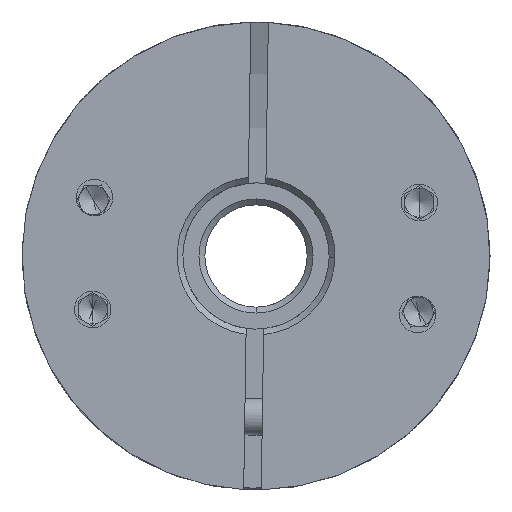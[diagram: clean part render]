
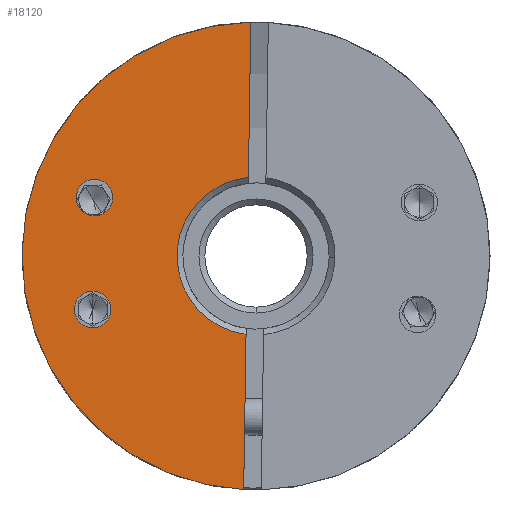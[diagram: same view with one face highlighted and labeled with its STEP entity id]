
A CAD part, front view. The second image highlights one B-rep face of the part: STEP entity #18120.
In plain terms, the highlighted planar face has unit normal (0, -1, 0).
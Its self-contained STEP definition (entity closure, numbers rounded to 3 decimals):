
#196 = DIRECTION ( 'NONE',  ( 1., 0., -0.015 ) ) ;
#206 = ORIENTED_EDGE ( 'NONE', *, *, #15008, .T. ) ;
#208 = VERTEX_POINT ( 'NONE', #15770 ) ;
#331 = CIRCLE ( 'NONE', #4016, 1.25 ) ;
#601 = AXIS2_PLACEMENT_3D ( 'NONE', #1756, #11448, #20678 ) ;
#732 = CIRCLE ( 'NONE', #15209, 1.25 ) ;
#1420 = AXIS2_PLACEMENT_3D ( 'NONE', #3936, #11525, #196 ) ;
#1428 = CARTESIAN_POINT ( 'NONE',  ( -70.229, -19.411, 3.994 ) ) ;
#1756 = CARTESIAN_POINT ( 'NONE',  ( -70.345, -19.411, -3.656 ) ) ;
#2129 = CARTESIAN_POINT ( 'NONE',  ( -71.479, -19.411, 4.013 ) ) ;
#2479 = DIRECTION ( 'NONE',  ( 0., -1., 0. ) ) ;
#2506 = EDGE_LOOP ( 'NONE', ( #8284, #16114, #14793, #10291, #17716 ) ) ;
#3100 = AXIS2_PLACEMENT_3D ( 'NONE', #1428, #12526, #12782 ) ;
#3464 = VECTOR ( 'NONE', #8041, 1000. ) ;
#3936 = CARTESIAN_POINT ( 'NONE',  ( -59.178, -19.411, 0. ) ) ;
#3987 = CIRCLE ( 'NONE', #1420, 16. ) ;
#4016 = AXIS2_PLACEMENT_3D ( 'NONE', #23746, #20109, #16503 ) ;
#4947 = EDGE_CURVE ( 'NONE', #5636, #15094, #732, .T. ) ;
#4956 = ORIENTED_EDGE ( 'NONE', *, *, #4947, .T. ) ;
#5138 = FACE_OUTER_BOUND ( 'NONE', #2506, .T. ) ;
#5413 = DIRECTION ( 'NONE',  ( 0., 1., 0. ) ) ;
#5421 = CARTESIAN_POINT ( 'NONE',  ( -59.687, -19.411, 6.008 ) ) ;
#5636 = VERTEX_POINT ( 'NONE', #23624 ) ;
#6407 = ORIENTED_EDGE ( 'NONE', *, *, #6813, .T. ) ;
#6813 = EDGE_CURVE ( 'NONE', #208, #6972, #331, .T. ) ;
#6972 = VERTEX_POINT ( 'NONE', #2129 ) ;
#7407 = CARTESIAN_POINT ( 'NONE',  ( -59.697, -19.411, 5.375 ) ) ;
#8041 = DIRECTION ( 'NONE',  ( -0.015, 0., -1. ) ) ;
#8172 = EDGE_CURVE ( 'NONE', #14587, #10458, #21670, .T. ) ;
#8284 = ORIENTED_EDGE ( 'NONE', *, *, #8172, .F. ) ;
#8736 = CARTESIAN_POINT ( 'NONE',  ( -75.176, -19.411, 0.243 ) ) ;
#9217 = DIRECTION ( 'NONE',  ( -0.015, 0., -1. ) ) ;
#9402 = CARTESIAN_POINT ( 'NONE',  ( -71.595, -19.411, -3.637 ) ) ;
#9847 = FACE_BOUND ( 'NONE', #10603, .T. ) ;
#10219 = CIRCLE ( 'NONE', #20658, 16. ) ;
#10253 = CARTESIAN_POINT ( 'NONE',  ( -60.021, -19.411, -15.978 ) ) ;
#10291 = ORIENTED_EDGE ( 'NONE', *, *, #12969, .T. ) ;
#10458 = VERTEX_POINT ( 'NONE', #10253 ) ;
#10558 = VERTEX_POINT ( 'NONE', #18662 ) ;
#10603 = EDGE_LOOP ( 'NONE', ( #206, #4956 ) ) ;
#11448 = DIRECTION ( 'NONE',  ( 0., 1., 0. ) ) ;
#11525 = DIRECTION ( 'NONE',  ( 0., -1., 0. ) ) ;
#11800 = DIRECTION ( 'NONE',  ( 0., 1., 0. ) ) ;
#12526 = DIRECTION ( 'NONE',  ( 0., 1., 0. ) ) ;
#12782 = DIRECTION ( 'NONE',  ( 1., 0., -0.015 ) ) ;
#12969 = EDGE_CURVE ( 'NONE', #10558, #20363, #10219, .T. ) ;
#13596 = AXIS2_PLACEMENT_3D ( 'NONE', #24239, #2479, #22888 ) ;
#13707 = CIRCLE ( 'NONE', #20914, 5.4 ) ;
#13934 = VERTEX_POINT ( 'NONE', #7407 ) ;
#14131 = CIRCLE ( 'NONE', #3100, 1.25 ) ;
#14587 = VERTEX_POINT ( 'NONE', #15249 ) ;
#14793 = ORIENTED_EDGE ( 'NONE', *, *, #16381, .F. ) ;
#14812 = CARTESIAN_POINT ( 'NONE',  ( -59.178, -19.411, 0. ) ) ;
#15008 = EDGE_CURVE ( 'NONE', #15094, #5636, #23542, .T. ) ;
#15094 = VERTEX_POINT ( 'NONE', #9402 ) ;
#15209 = AXIS2_PLACEMENT_3D ( 'NONE', #23109, #11800, #17402 ) ;
#15249 = CARTESIAN_POINT ( 'NONE',  ( -59.86, -19.411, -5.357 ) ) ;
#15770 = CARTESIAN_POINT ( 'NONE',  ( -68.979, -19.411, 3.975 ) ) ;
#15803 = LINE ( 'NONE', #23073, #3464 ) ;
#16114 = ORIENTED_EDGE ( 'NONE', *, *, #17470, .T. ) ;
#16381 = EDGE_CURVE ( 'NONE', #10558, #13934, #15803, .T. ) ;
#16503 = DIRECTION ( 'NONE',  ( 1., 0., -0.015 ) ) ;
#16582 = FACE_BOUND ( 'NONE', #20207, .T. ) ;
#17250 = PLANE ( 'NONE',  #13596 ) ;
#17271 = VECTOR ( 'NONE', #9217, 1000. ) ;
#17402 = DIRECTION ( 'NONE',  ( 1., 0., -0.015 ) ) ;
#17470 = EDGE_CURVE ( 'NONE', #14587, #13934, #13707, .T. ) ;
#17716 = ORIENTED_EDGE ( 'NONE', *, *, #23896, .T. ) ;
#18120 = ADVANCED_FACE ( 'NONE', ( #5138, #16582, #9847 ), #17250, .T. ) ;
#18144 = DIRECTION ( 'NONE',  ( 0., -1., 0. ) ) ;
#18372 = DIRECTION ( 'NONE',  ( 1., 0., -0.015 ) ) ;
#18389 = DIRECTION ( 'NONE',  ( 1., 0., -0.015 ) ) ;
#18662 = CARTESIAN_POINT ( 'NONE',  ( -59.535, -19.411, 15.996 ) ) ;
#20109 = DIRECTION ( 'NONE',  ( 0., 1., 0. ) ) ;
#20207 = EDGE_LOOP ( 'NONE', ( #23138, #6407 ) ) ;
#20363 = VERTEX_POINT ( 'NONE', #8736 ) ;
#20658 = AXIS2_PLACEMENT_3D ( 'NONE', #23341, #18144, #18389 ) ;
#20678 = DIRECTION ( 'NONE',  ( 1., 0., -0.015 ) ) ;
#20914 = AXIS2_PLACEMENT_3D ( 'NONE', #14812, #5413, #18372 ) ;
#21609 = EDGE_CURVE ( 'NONE', #6972, #208, #14131, .T. ) ;
#21670 = LINE ( 'NONE', #5421, #17271 ) ;
#22888 = DIRECTION ( 'NONE',  ( 1., 0., -0.015 ) ) ;
#23073 = CARTESIAN_POINT ( 'NONE',  ( -59.687, -19.411, 6.008 ) ) ;
#23109 = CARTESIAN_POINT ( 'NONE',  ( -70.345, -19.411, -3.656 ) ) ;
#23138 = ORIENTED_EDGE ( 'NONE', *, *, #21609, .T. ) ;
#23341 = CARTESIAN_POINT ( 'NONE',  ( -59.178, -19.411, 0. ) ) ;
#23542 = CIRCLE ( 'NONE', #601, 1.25 ) ;
#23624 = CARTESIAN_POINT ( 'NONE',  ( -69.095, -19.411, -3.675 ) ) ;
#23746 = CARTESIAN_POINT ( 'NONE',  ( -70.229, -19.411, 3.994 ) ) ;
#23896 = EDGE_CURVE ( 'NONE', #20363, #10458, #3987, .T. ) ;
#24239 = CARTESIAN_POINT ( 'NONE',  ( -59.178, -19.411, 0. ) ) ;
